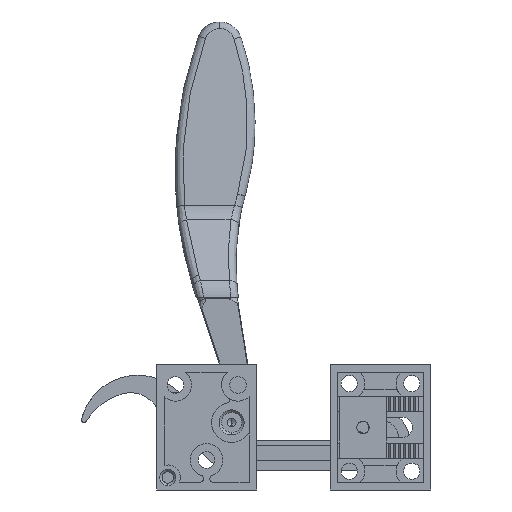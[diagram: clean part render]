
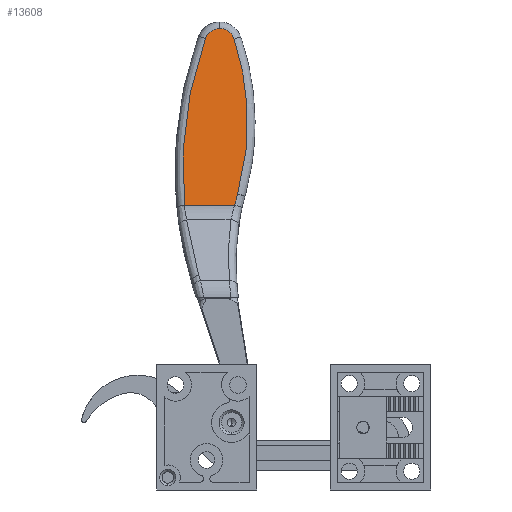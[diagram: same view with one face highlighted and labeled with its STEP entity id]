
A CAD part, front view. The second image highlights one B-rep face of the part: STEP entity #13608.
In plain terms, the highlighted planar face has unit normal (-0.001, -0.992, 0.128).
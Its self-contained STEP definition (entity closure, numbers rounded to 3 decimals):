
#316 = ORIENTED_EDGE ( 'NONE', *, *, #18619, .T. ) ;
#369 = CARTESIAN_POINT ( 'NONE',  ( 1.696, 39.067, 153.271 ) ) ;
#1074 = CARTESIAN_POINT ( 'NONE',  ( -3.369, 39.599, 157.384 ) ) ;
#1545 = CARTESIAN_POINT ( 'NONE',  ( 1.696, 39.067, 153.271 ) ) ;
#2300 = EDGE_CURVE ( 'NONE', #20592, #27869, #9590, .T. ) ;
#2387 = CARTESIAN_POINT ( 'NONE',  ( -6.39, 39.539, 156.922 ) ) ;
#2426 = EDGE_CURVE ( 'NONE', #21259, #20592, #19577, .T. ) ;
#2706 = CARTESIAN_POINT ( 'NONE',  ( 2.052, 30.675, 88.319 ) ) ;
#2841 = CARTESIAN_POINT ( 'NONE',  ( 2.45, 30.87, 89.83 ) ) ;
#2846 = EDGE_CURVE ( 'NONE', #27869, #22810, #11619, .T. ) ;
#3087 = DIRECTION ( 'NONE',  ( 0., -0.128, -0.992 ) ) ;
#3388 = CARTESIAN_POINT ( 'NONE',  ( -2.754, 39.586, 157.287 ) ) ;
#4719 = CARTESIAN_POINT ( 'NONE',  ( -9.134, 39.233, 154.55 ) ) ;
#4994 = CARTESIAN_POINT ( 'NONE',  ( -19.156, 39.654, 157.808 ) ) ;
#5106 = B_SPLINE_CURVE_WITH_KNOTS ( 'NONE', 3,
 ( #16462, #20808, #20945, #19042, #14150, #16731, #18624, #3388, #1074, #14418 ),
 .UNSPECIFIED., .F., .F.,
 ( 4, 2, 2, 2, 4 ),
 ( 0., 0.25, 0.5, 0.75, 1. ),
 .UNSPECIFIED. ) ;
#5227 = B_SPLINE_CURVE_WITH_KNOTS ( 'NONE', 3,
 ( #18399, #20424, #22733, #7375, #16221, #27608, #28044, #14460, #14757, #1545 ),
 .UNSPECIFIED., .F., .F.,
 ( 4, 2, 2, 2, 4 ),
 ( 0., 0.25, 0.5, 0.75, 1. ),
 .UNSPECIFIED. ) ;
#6045 = CARTESIAN_POINT ( 'NONE',  ( -18.404, 30.479, 86.8 ) ) ;
#6082 = AXIS2_PLACEMENT_3D ( 'NONE', #4994, #22668, #3087 ) ;
#6304 = VERTEX_POINT ( 'NONE', #21876 ) ;
#6460 = CARTESIAN_POINT ( 'NONE',  ( -11.572, 38.403, 148.128 ) ) ;
#7198 = CARTESIAN_POINT ( 'NONE',  ( -9.427, 39.164, 154.017 ) ) ;
#7375 = CARTESIAN_POINT ( 'NONE',  ( 6.788, 33.723, 111.912 ) ) ;
#7407 = ORIENTED_EDGE ( 'NONE', *, *, #2426, .T. ) ;
#7780 = CARTESIAN_POINT ( 'NONE',  ( 1.69, 30.479, 86.8 ) ) ;
#7924 = ORIENTED_EDGE ( 'NONE', *, *, #25018, .T. ) ;
#8361 = CARTESIAN_POINT ( 'NONE',  ( -18.413, 34.122, 114.997 ) ) ;
#8785 = CARTESIAN_POINT ( 'NONE',  ( -19.086, 31.935, 98.07 ) ) ;
#9371 = CARTESIAN_POINT ( 'NONE',  ( -8.385, 39.359, 155.526 ) ) ;
#9590 = B_SPLINE_CURVE_WITH_KNOTS ( 'NONE', 3,
 ( #15171, #6460, #28595, #28309, #28173, #8361, #12995, #8785, #12714, #26573 ),
 .UNSPECIFIED., .F., .F.,
 ( 4, 2, 2, 2, 4 ),
 ( 0., 0.25, 0.5, 0.75, 1. ),
 .UNSPECIFIED. ) ;
#9661 = CARTESIAN_POINT ( 'NONE',  ( -4.615, 39.599, 157.384 ) ) ;
#10004 = ORIENTED_EDGE ( 'NONE', *, *, #2300, .T. ) ;
#10643 = ORIENTED_EDGE ( 'NONE', *, *, #14477, .T. ) ;
#10992 = VERTEX_POINT ( 'NONE', #369 ) ;
#11619 = LINE ( 'NONE', #22053, #21246 ) ;
#11703 = CARTESIAN_POINT ( 'NONE',  ( 2.884, 31.064, 91.331 ) ) ;
#12714 = CARTESIAN_POINT ( 'NONE',  ( -18.899, 31.206, 92.43 ) ) ;
#12995 = CARTESIAN_POINT ( 'NONE',  ( -18.842, 33.395, 109.37 ) ) ;
#13608 = ADVANCED_FACE ( 'NONE', ( #16012 ), #24831, .T. ) ;
#13998 = CARTESIAN_POINT ( 'NONE',  ( -9.638, 39.089, 153.438 ) ) ;
#14150 = CARTESIAN_POINT ( 'NONE',  ( 0.024, 39.404, 155.88 ) ) ;
#14418 = CARTESIAN_POINT ( 'NONE',  ( -4., 39.599, 157.384 ) ) ;
#14460 = CARTESIAN_POINT ( 'NONE',  ( 4.615, 37.767, 143.205 ) ) ;
#14477 = EDGE_CURVE ( 'NONE', #22810, #6304, #19028, .T. ) ;
#14757 = CARTESIAN_POINT ( 'NONE',  ( 3.347, 38.423, 148.286 ) ) ;
#15171 = CARTESIAN_POINT ( 'NONE',  ( -9.638, 39.089, 153.438 ) ) ;
#16012 = FACE_OUTER_BOUND ( 'NONE', #27852, .T. ) ;
#16221 = CARTESIAN_POINT ( 'NONE',  ( 7.081, 34.399, 117.141 ) ) ;
#16292 = CARTESIAN_POINT ( 'NONE',  ( -9.638, 39.089, 153.438 ) ) ;
#16462 = CARTESIAN_POINT ( 'NONE',  ( 1.696, 39.067, 153.271 ) ) ;
#16731 = CARTESIAN_POINT ( 'NONE',  ( -0.998, 39.5, 156.617 ) ) ;
#17825 = CARTESIAN_POINT ( 'NONE',  ( -4., 39.599, 157.384 ) ) ;
#18131 = DIRECTION ( 'NONE',  ( 1., 0., 0. ) ) ;
#18399 = CARTESIAN_POINT ( 'NONE',  ( 2.884, 31.064, 91.331 ) ) ;
#18619 = EDGE_CURVE ( 'NONE', #6304, #10992, #5227, .T. ) ;
#18624 = CARTESIAN_POINT ( 'NONE',  ( -1.554, 39.536, 156.899 ) ) ;
#19028 = B_SPLINE_CURVE_WITH_KNOTS ( 'NONE', 3,
 ( #20542, #2706, #2841, #11703 ),
 .UNSPECIFIED., .F., .F.,
 ( 4, 4 ),
 ( 0., 1. ),
 .UNSPECIFIED. ) ;
#19042 = CARTESIAN_POINT ( 'NONE',  ( 0.467, 39.348, 155.44 ) ) ;
#19577 = B_SPLINE_CURVE_WITH_KNOTS ( 'NONE', 3,
 ( #27007, #9661, #27154, #2387, #24711, #24557, #9371, #4719, #7198, #13998 ),
 .UNSPECIFIED., .F., .F.,
 ( 4, 2, 2, 2, 4 ),
 ( 0., 0.25, 0.5, 0.75, 1. ),
 .UNSPECIFIED. ) ;
#20424 = CARTESIAN_POINT ( 'NONE',  ( 4.342, 31.716, 96.375 ) ) ;
#20542 = CARTESIAN_POINT ( 'NONE',  ( 1.69, 30.479, 86.8 ) ) ;
#20592 = VERTEX_POINT ( 'NONE', #16292 ) ;
#20808 = CARTESIAN_POINT ( 'NONE',  ( 1.498, 39.145, 153.869 ) ) ;
#20945 = CARTESIAN_POINT ( 'NONE',  ( 1.211, 39.216, 154.424 ) ) ;
#21246 = VECTOR ( 'NONE', #18131, 1000. ) ;
#21259 = VERTEX_POINT ( 'NONE', #17825 ) ;
#21440 = ORIENTED_EDGE ( 'NONE', *, *, #2846, .T. ) ;
#21876 = CARTESIAN_POINT ( 'NONE',  ( 2.884, 31.064, 91.331 ) ) ;
#22053 = CARTESIAN_POINT ( 'NONE',  ( -19.156, 30.479, 86.8 ) ) ;
#22668 = DIRECTION ( 'NONE',  ( 0., -0.992, 0.128 ) ) ;
#22733 = CARTESIAN_POINT ( 'NONE',  ( 5.415, 32.378, 101.501 ) ) ;
#22810 = VERTEX_POINT ( 'NONE', #7780 ) ;
#24557 = CARTESIAN_POINT ( 'NONE',  ( -7.944, 39.413, 155.947 ) ) ;
#24711 = CARTESIAN_POINT ( 'NONE',  ( -6.937, 39.504, 156.652 ) ) ;
#24831 = PLANE ( 'NONE',  #6082 ) ;
#25018 = EDGE_CURVE ( 'NONE', #10992, #21259, #5106, .T. ) ;
#26573 = CARTESIAN_POINT ( 'NONE',  ( -18.404, 30.479, 86.8 ) ) ;
#27007 = CARTESIAN_POINT ( 'NONE',  ( -4., 39.599, 157.384 ) ) ;
#27154 = CARTESIAN_POINT ( 'NONE',  ( -5.217, 39.587, 157.292 ) ) ;
#27608 = CARTESIAN_POINT ( 'NONE',  ( 6.88, 35.756, 127.64 ) ) ;
#27852 = EDGE_LOOP ( 'NONE', ( #21440, #10643, #316, #7924, #7407, #10004 ) ) ;
#27869 = VERTEX_POINT ( 'NONE', #6045 ) ;
#28044 = CARTESIAN_POINT ( 'NONE',  ( 6.387, 36.429, 132.854 ) ) ;
#28173 = CARTESIAN_POINT ( 'NONE',  ( -16.939, 35.57, 126.203 ) ) ;
#28309 = CARTESIAN_POINT ( 'NONE',  ( -15.899, 36.287, 131.75 ) ) ;
#28595 = CARTESIAN_POINT ( 'NONE',  ( -13.211, 37.705, 142.728 ) ) ;
